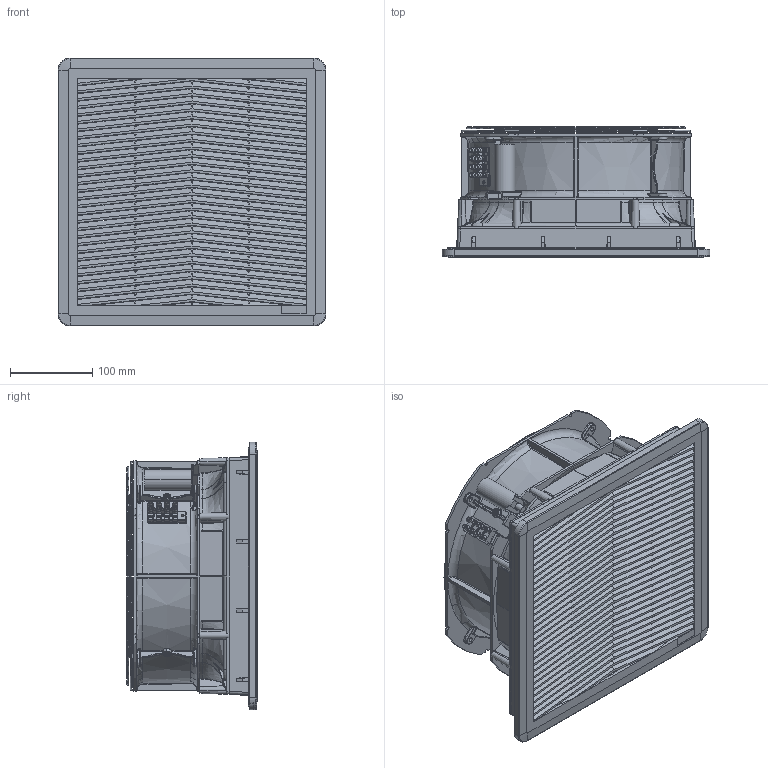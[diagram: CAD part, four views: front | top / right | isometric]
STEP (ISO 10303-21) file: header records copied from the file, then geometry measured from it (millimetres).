
FILE_DESCRIPTION((''),'2;1');
FILE_NAME('SCE-N12FA10HF_ASM','2016-11-07T',('dougp'),('SAGINAW CONTROL & ENGINEERING'),'PRO/ENGINEER BY PARAMETRIC TECHNOLOGY CORPORATION, 2012070','PRO/ENGINEER BY PARAMETRIC TECHNOLOGY CORPORATION, 2012070','');
FILE_SCHEMA(('AUTOMOTIVE_DESIGN { 1 0 10303 214 1 1 1 1 }'));
Products named in the file (7): __46022__DT-01516DSI_COND__CON_; __94844__DT-01480DSI_1; __67423__DT-01481DSI_04POLI_1; __57404__DT-01464DSI_1; __94148__DT-01375DSI_1; 1_A_ASM_1_ASM; SCE-N12FA10HF_ASM
Assembly tree (6 placements, depth 3):
  SCE-N12FA10HF_ASM
    1_A_ASM_1_ASM
      __46022__DT-01516DSI_COND__CON_
      __94844__DT-01480DSI_1
      __67423__DT-01481DSI_04POLI_1
      __57404__DT-01464DSI_1
      __94148__DT-01375DSI_1
Bounding box: 325 x 158.15 x 325 mm (x, y, z)
Volume: 373917.1 mm3; surface area: 1004297.9 mm2
Topology: 3 solids, 10 shells, 4857 faces, 13330 edges, 8166 vertices
Faces by surface type: plane 1881, cylinder 1585, bspline 605, torus 481, cone 210, sphere 89, revolution 4, extrusion 2
Entity records: 204643 total; most frequent: CARTESIAN_POINT 87648, ORIENTED_EDGE 26342, DIRECTION 21076, EDGE_CURVE 13220, VERTEX_POINT 8165, VECTOR 7112, LINE 7110, AXIS2_PLACEMENT_3D 6980
